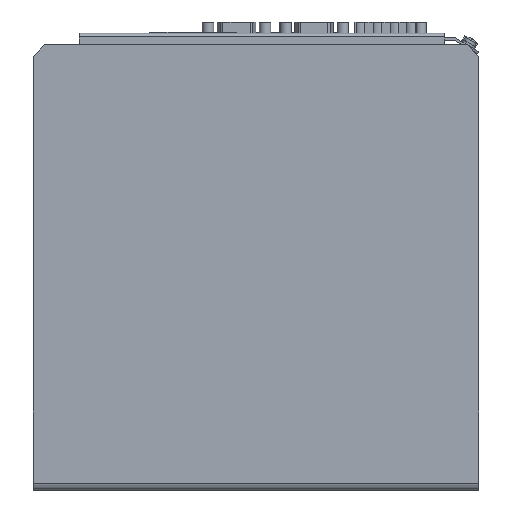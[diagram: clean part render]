
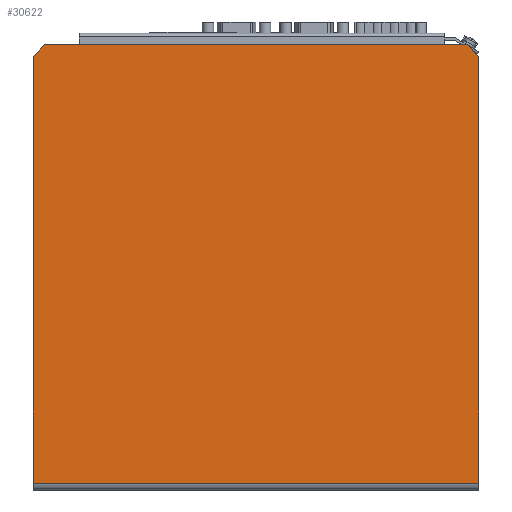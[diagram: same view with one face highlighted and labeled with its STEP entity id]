
A CAD part, left-side view. The second image highlights one B-rep face of the part: STEP entity #30622.
In plain terms, the highlighted planar face has unit normal (-1, 0, 0).
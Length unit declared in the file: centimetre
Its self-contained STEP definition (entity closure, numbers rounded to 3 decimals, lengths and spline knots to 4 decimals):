
#5749=VERTEX_POINT('',#51355);
#5752=VERTEX_POINT('',#51360);
#5753=VERTEX_POINT('',#51364);
#5754=VERTEX_POINT('',#51366);
#5755=VERTEX_POINT('',#51368);
#5756=VERTEX_POINT('',#51370);
#8524=VECTOR('',#36925,1.);
#8525=VECTOR('',#36927,1.);
#8526=VECTOR('',#36928,1.);
#8527=VECTOR('',#36929,1.);
#8528=VECTOR('',#36930,1.);
#8529=VECTOR('',#36931,1.);
#11299=LINE('',#51361,#8524);
#11300=LINE('',#51363,#8525);
#11301=LINE('',#51365,#8526);
#11302=LINE('',#51367,#8527);
#11303=LINE('',#51369,#8528);
#11304=LINE('',#51371,#8529);
#15626=EDGE_CURVE('',#5752,#5749,#11299,.T.);
#15627=EDGE_CURVE('',#5752,#5753,#11300,.T.);
#15628=EDGE_CURVE('',#5753,#5754,#11301,.T.);
#15629=EDGE_CURVE('',#5754,#5755,#11302,.T.);
#15630=EDGE_CURVE('',#5755,#5756,#11303,.T.);
#15631=EDGE_CURVE('',#5749,#5756,#11304,.T.);
#24242=ORIENTED_EDGE('',*,*,#15626,.F.);
#24243=ORIENTED_EDGE('',*,*,#15627,.T.);
#24244=ORIENTED_EDGE('',*,*,#15628,.T.);
#24245=ORIENTED_EDGE('',*,*,#15629,.T.);
#24246=ORIENTED_EDGE('',*,*,#15630,.T.);
#24247=ORIENTED_EDGE('',*,*,#15631,.F.);
#26678=EDGE_LOOP('',(#24242,#24243,#24244,#24245,#24246,#24247));
#28839=FACE_BOUND('',#26678,.T.);
#30622=ADVANCED_FACE('',(#28839),#52596,.T.);
#32133=AXIS2_PLACEMENT_3D('',#51362,#36926,$);
#36925=DIRECTION('',(0.,1.,0.));
#36926=DIRECTION('',(-1.,0.,0.));
#36927=DIRECTION('',(0.,0.,1.));
#36928=DIRECTION('',(0.,0.707,0.707));
#36929=DIRECTION('',(0.,1.,0.));
#36930=DIRECTION('',(0.,0.707,-0.707));
#36931=DIRECTION('',(0.,0.,1.));
#51355=CARTESIAN_POINT('',(0.,19.5,0.3));
#51360=CARTESIAN_POINT('',(0.,0.,0.3));
#51361=CARTESIAN_POINT('',(0.,9.4584,0.3));
#51362=CARTESIAN_POINT('',(0.,9.75,0.));
#51363=CARTESIAN_POINT('',(0.,0.,0.));
#51364=CARTESIAN_POINT('',(0.,0.,19.));
#51365=CARTESIAN_POINT('',(0.,-2.1875,16.8125));
#51366=CARTESIAN_POINT('',(0.,0.5,19.5));
#51367=CARTESIAN_POINT('',(0.,9.7,19.5));
#51368=CARTESIAN_POINT('',(0.,19.,19.5));
#51369=CARTESIAN_POINT('',(0.,21.6875,16.8125));
#51370=CARTESIAN_POINT('',(0.,19.5,19.));
#51371=CARTESIAN_POINT('',(0.,19.5,0.));
#52596=PLANE('',#32133);
